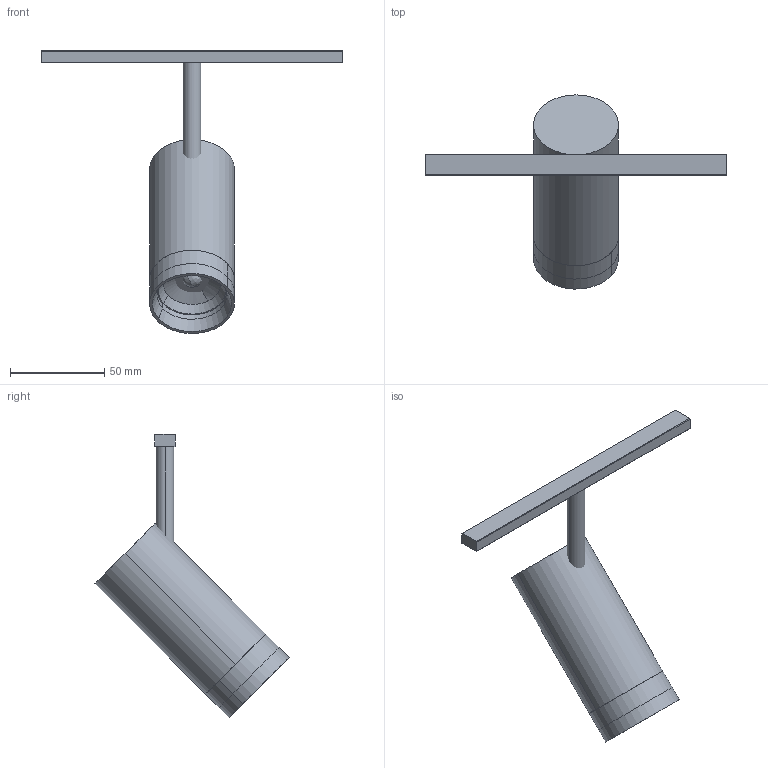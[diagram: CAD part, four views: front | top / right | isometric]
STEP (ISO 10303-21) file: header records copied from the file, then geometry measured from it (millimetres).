
FILE_DESCRIPTION(/* description */ (''),/* implementation_level */ '2;1');
FILE_NAME(/* name */ 'EIDOS ZOOM Ø45 - STREAM',/* time_stamp */ '2025-10-30T15:36:58+01:00',/* author */ (''),/* organization */ (''),/* preprocessor_version */ 'ST-DEVELOPER v19.2',/* originating_system */ 'Rhino 8.24',/* authorisation */ '');
FILE_SCHEMA (('CONFIG_CONTROL_DESIGN'));
Length unit declared in the file: millimetre
Products named in the file (1): EIDOS ZOOM Ø45 - STREAM
Bounding box: 160.11 x 102.86 x 150.07 mm (x, y, z)
Volume: 171096.5 mm3; surface area: 35501.5 mm2
Topology: 6 solids, 6 shells, 50 faces, 109 edges, 72 vertices
Faces by surface type: cylinder 22, plane 20, bspline 8
Entity records: 1874 total; most frequent: CARTESIAN_POINT 759, ORIENTED_EDGE 216, DIRECTION 156, EDGE_CURVE 108, AXIS2_PLACEMENT_3D 99, VERTEX_POINT 71, EDGE_LOOP 57, TRIMMED_CURVE 54
